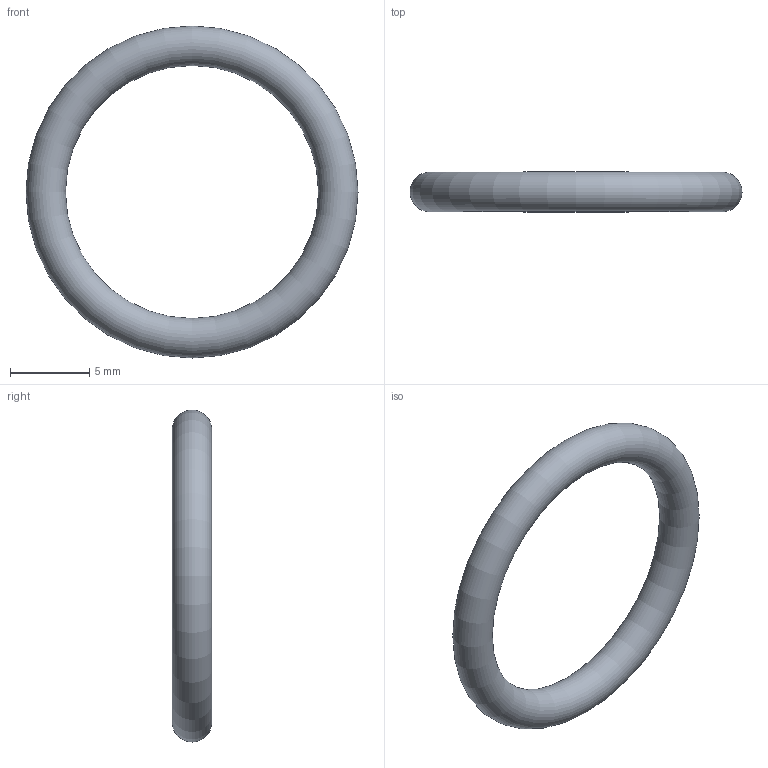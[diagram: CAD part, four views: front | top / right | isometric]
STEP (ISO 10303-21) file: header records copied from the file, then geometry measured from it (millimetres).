
FILE_DESCRIPTION( ( 'STEP AP203' ), '1' );
FILE_NAME( 'C:/Temp/Ganter_Step_05_03_2020/data/3_5/or638/O-Ring OR638-16.00-2.50-70.stp', '2020-03-12T13:44:27', ( 'License CC BY-ND 4.0' ), ( 'CADENAS' ), ' ', 'PARTsolutions', ' ' );
FILE_SCHEMA( ( 'CONFIG_CONTROL_DESIGN' ) );
Length unit declared in the file: millimetre
Products named in the file (1): _O-Ring OR638-16.00-2.50-70
Bounding box: 21 x 2.5 x 21 mm (x, y, z)
Volume: 285.3 mm3; surface area: 456.5 mm2
Topology: 1 solids, 1 shells, 1 faces, 2 edges, 1 vertices
Faces by surface type: torus 1
Entity records: 62 total; most frequent: CC_DESIGN_PERSON_AND_ORGANIZATION_ASSIGNMENT 5, PERSON_AND_ORGANIZATION_ROLE 4, DIRECTION 4, CARTESIAN_POINT 3, DATE_TIME_ROLE 2, CC_DESIGN_DATE_AND_TIME_ASSIGNMENT 2, AXIS2_PLACEMENT_3D 2, DIMENSIONAL_EXPONENTS 2
